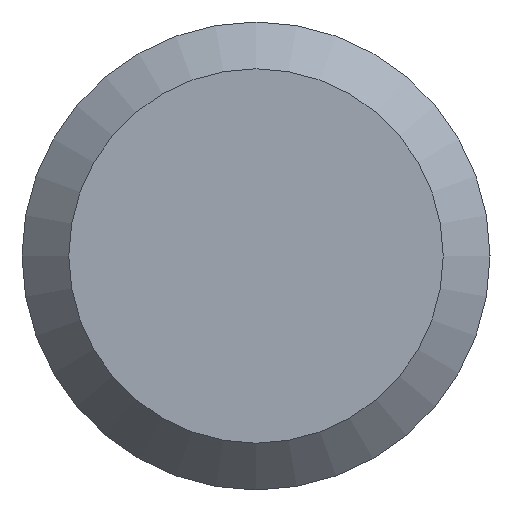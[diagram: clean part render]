
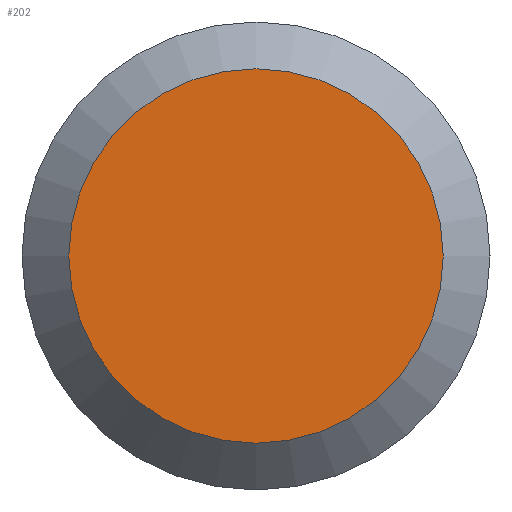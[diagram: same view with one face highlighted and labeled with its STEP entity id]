
A CAD part, left-side view. The second image highlights one B-rep face of the part: STEP entity #202.
In plain terms, the highlighted planar face has unit normal (-1, 0, 0).
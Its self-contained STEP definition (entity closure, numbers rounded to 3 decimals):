
#2 = DIRECTION ( 'NONE',  ( 0., 1., 0. ) ) ;
#11 = AXIS2_PLACEMENT_3D ( 'NONE', #100, #64, #66 ) ;
#47 = CIRCLE ( 'NONE', #86, 6.4 ) ;
#64 = DIRECTION ( 'NONE',  ( -1., 0., 0. ) ) ;
#66 = DIRECTION ( 'NONE',  ( 0., -1., 0. ) ) ;
#67 = EDGE_LOOP ( 'NONE', ( #196 ) ) ;
#86 = AXIS2_PLACEMENT_3D ( 'NONE', #159, #167, #2 ) ;
#100 = CARTESIAN_POINT ( 'NONE',  ( 0., 0., 0. ) ) ;
#128 = CARTESIAN_POINT ( 'NONE',  ( 0., 6.4, 0. ) ) ;
#146 = PLANE ( 'NONE',  #11 ) ;
#159 = CARTESIAN_POINT ( 'NONE',  ( 0., 0., 0. ) ) ;
#167 = DIRECTION ( 'NONE',  ( 1., 0., 0. ) ) ;
#173 = FACE_OUTER_BOUND ( 'NONE', #67, .T. ) ;
#186 = EDGE_CURVE ( 'NONE', #223, #223, #47, .T. ) ;
#196 = ORIENTED_EDGE ( 'NONE', *, *, #186, .F. ) ;
#202 = ADVANCED_FACE ( 'NONE', ( #173 ), #146, .T. ) ;
#223 = VERTEX_POINT ( 'NONE', #128 ) ;
